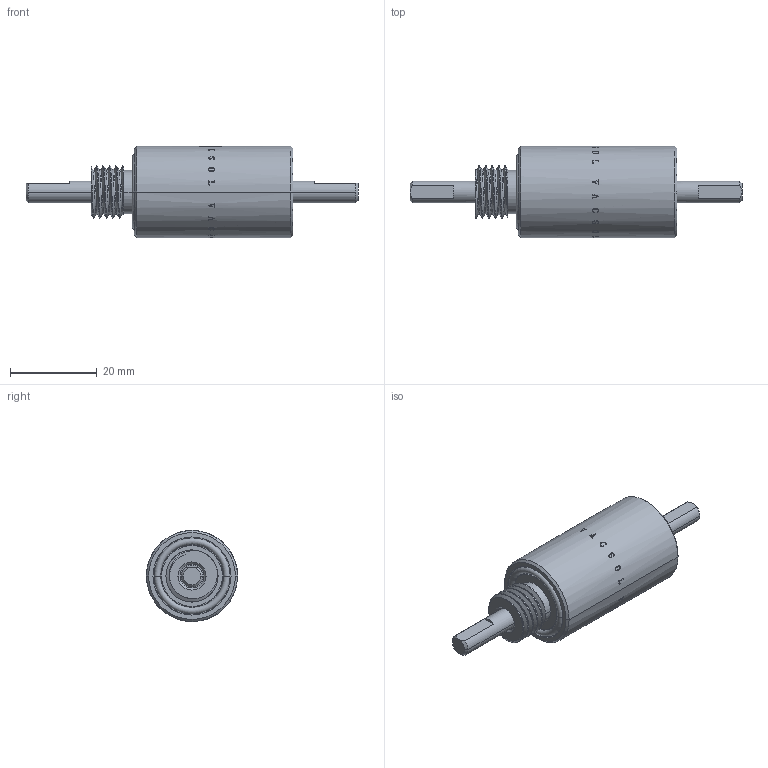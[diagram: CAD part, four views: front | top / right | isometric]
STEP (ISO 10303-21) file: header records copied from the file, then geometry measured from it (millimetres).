
FILE_DESCRIPTION (( 'STEP AP214' ), '1' );
FILE_NAME ('m5.STEP', '2010-08-26T13:09:33', ( 'user' ), ( '' ), 'SwSTEP 2.0', 'SolidWorks 2007', '' );
FILE_SCHEMA (( 'AUTOMOTIVE_DESIGN' ));
Length unit declared in the file: millimetre
Products named in the file (1): m5
Bounding box: 76.5 x 21 x 21 mm (x, y, z)
Volume: 14055.8 mm3; surface area: 4724 mm2
Topology: 2 solids, 2 shells, 386 faces, 1038 edges, 686 vertices
Faces by surface type: bspline 258, plane 59, cylinder 51, cone 14, torus 4
Entity records: 31130 total; most frequent: CARTESIAN_POINT 20222, ORIENTED_EDGE 2076, EDGE_CURVE 1038, B_SPLINE_CURVE_WITH_KNOTS 811, VERTEX_POINT 686, DIRECTION 575, EDGE_LOOP 418, ADVANCED_FACE 386
